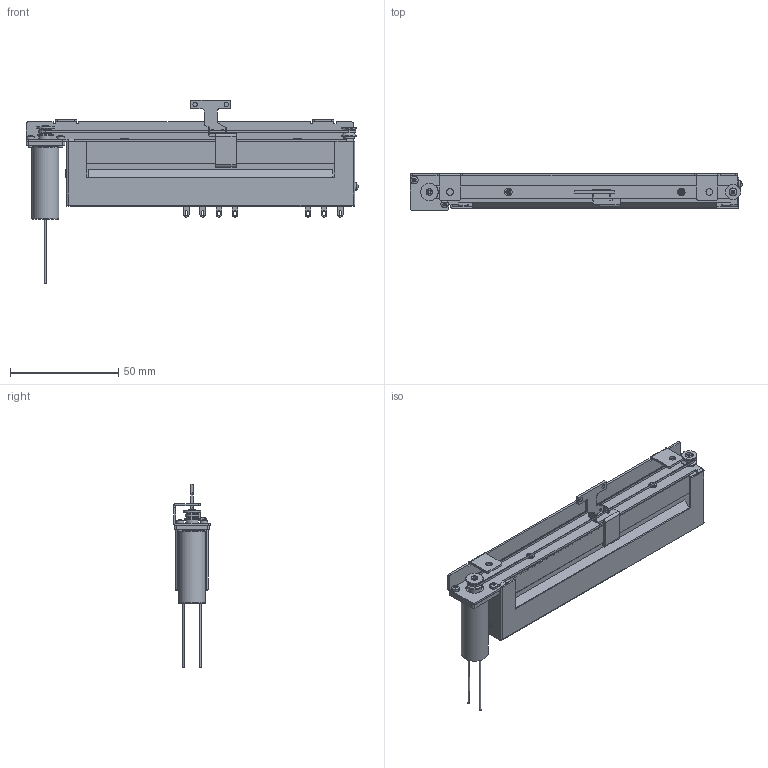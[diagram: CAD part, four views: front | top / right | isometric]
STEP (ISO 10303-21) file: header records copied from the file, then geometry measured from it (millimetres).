
FILE_DESCRIPTION(('FreeCAD Model'),'2;1');
FILE_NAME('Open CASCADE Shape Model','2025-05-15T17:00:52',(''),(''), 'Open CASCADE STEP processor 7.8','FreeCAD','Unknown');
FILE_SCHEMA(('AUTOMOTIVE_DESIGN { 1 0 10303 214 1 1 1 1 }'));
Length unit declared in the file: millimetre
Products named in the file (1): MF-915-J12-L9-2CIR
Bounding box: 153.67 x 17 x 85 mm (x, y, z)
Volume: 57392.6 mm3; surface area: 33192 mm2
Topology: 1 solids, 9 shells, 750 faces, 1963 edges, 1250 vertices
Faces by surface type: plane 500, cylinder 165, cone 48, bspline 18, torus 10, sphere 6, revolution 3
Full cylindrical faces by diameter (mm): 0.9 x2, 1.1 x2, 1.2 x4, 1.25 x2, 1.46 x1, 1.5 x3, 1.6 x2, 1.9 x2, 2 x14, 2.1 x1, 2.2 x5, 2.4 x2, 2.6 x3, 3 x4, 3.03 x1, 3.2 x2, 3.5 x4, 3.6 x2, 3.7 x1, 4 x5, 4.1 x1, 4.75 x1, 5 x1, 5.38 x1, 6 x1, 7 x3, 8 x1, 8.2 x1, 12 x1, 12.5 x1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
Entity records: 27618 total; most frequent: CARTESIAN_POINT 4213, DIRECTION 4032, ORIENTED_EDGE 3922, EDGE_CURVE 1957, AXIS2_PLACEMENT_3D 1391, VERTEX_POINT 1250, LINE 1247, VECTOR 1247
